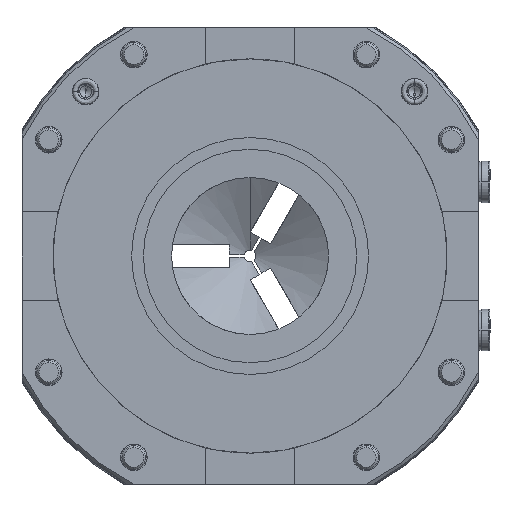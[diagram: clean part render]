
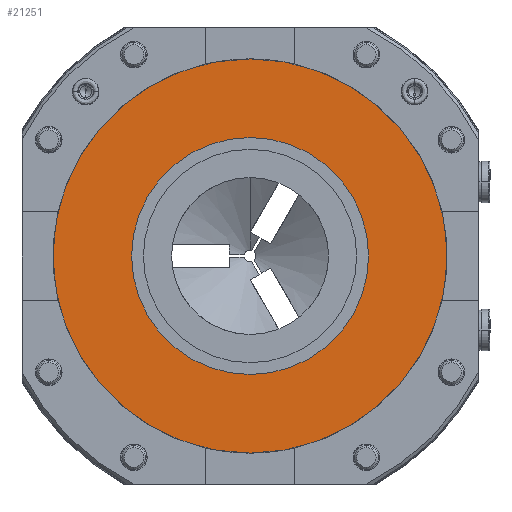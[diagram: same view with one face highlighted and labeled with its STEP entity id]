
A CAD part, front view. The second image highlights one B-rep face of the part: STEP entity #21251.
In plain terms, the highlighted planar face has unit normal (0, -1, 0).
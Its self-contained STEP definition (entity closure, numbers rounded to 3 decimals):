
#391 = ORIENTED_EDGE ( 'NONE', *, *, #12903, .T. ) ;
#392 = ORIENTED_EDGE ( 'NONE', *, *, #12898, .T. ) ;
#519 = ORIENTED_EDGE ( 'NONE', *, *, #22765, .T. ) ;
#520 = ORIENTED_EDGE ( 'NONE', *, *, #22830, .T. ) ;
#1693 = CARTESIAN_POINT ( 'NONE',  ( 0., 17.2, 0. ) ) ;
#1699 = DIRECTION ( 'NONE',  ( 0., 1., 0. ) ) ;
#1700 = DIRECTION ( 'NONE',  ( 0., 0., 1. ) ) ;
#2014 = CARTESIAN_POINT ( 'NONE',  ( 0., 17.2, 0. ) ) ;
#2020 = DIRECTION ( 'NONE',  ( 0., -1., 0. ) ) ;
#2021 = DIRECTION ( 'NONE',  ( 0., 0., 1. ) ) ;
#4736 = DIRECTION ( 'NONE',  ( 0., 0., 1. ) ) ;
#4737 = DIRECTION ( 'NONE',  ( 0., -1., 0. ) ) ;
#4739 = PLANE ( 'NONE',  #15852 ) ;
#4740 = CARTESIAN_POINT ( 'NONE',  ( 0., 17.2, 0. ) ) ;
#5073 = EDGE_LOOP ( 'NONE', ( #392, #520 ) ) ;
#5364 = EDGE_LOOP ( 'NONE', ( #391, #519 ) ) ;
#6061 = DIRECTION ( 'NONE',  ( 0., 0., 1. ) ) ;
#6062 = DIRECTION ( 'NONE',  ( 0., 1., 0. ) ) ;
#6063 = CARTESIAN_POINT ( 'NONE',  ( 0., 17.2, 0. ) ) ;
#6075 = DIRECTION ( 'NONE',  ( 0., 0., 1. ) ) ;
#6076 = DIRECTION ( 'NONE',  ( 0., -1., 0. ) ) ;
#6077 = CARTESIAN_POINT ( 'NONE',  ( 0., 17.2, 0. ) ) ;
#7336 = CARTESIAN_POINT ( 'NONE',  ( 0., 17.2, 66.55 ) ) ;
#7354 = CARTESIAN_POINT ( 'NONE',  ( 0., 17.2, -40. ) ) ;
#10494 = CIRCLE ( 'NONE', #16083, 66.55 ) ;
#10650 = CIRCLE ( 'NONE', #16086, 40. ) ;
#10928 = VERTEX_POINT ( 'NONE', #17851 ) ;
#10982 = VERTEX_POINT ( 'NONE', #18203 ) ;
#11267 = VERTEX_POINT ( 'NONE', #7354 ) ;
#11285 = VERTEX_POINT ( 'NONE', #7336 ) ;
#12898 = EDGE_CURVE ( 'NONE', #11285, #10982, #10494, .T. ) ;
#12903 = EDGE_CURVE ( 'NONE', #10928, #11267, #10650, .T. ) ;
#15852 = AXIS2_PLACEMENT_3D ( 'NONE', #4740, #4737, #4736 ) ;
#16083 = AXIS2_PLACEMENT_3D ( 'NONE', #6077, #6076, #6075 ) ;
#16086 = AXIS2_PLACEMENT_3D ( 'NONE', #6063, #6062, #6061 ) ;
#16524 = FACE_OUTER_BOUND ( 'NONE', #5073, .T. ) ;
#17028 = FACE_BOUND ( 'NONE', #5364, .T. ) ;
#17711 = AXIS2_PLACEMENT_3D ( 'NONE', #1693, #1699, #1700 ) ;
#17739 = AXIS2_PLACEMENT_3D ( 'NONE', #2014, #2020, #2021 ) ;
#17851 = CARTESIAN_POINT ( 'NONE',  ( 0., 17.2, 40. ) ) ;
#18203 = CARTESIAN_POINT ( 'NONE',  ( 0., 17.2, -66.55 ) ) ;
#20637 = CIRCLE ( 'NONE', #17739, 66.55 ) ;
#20830 = CIRCLE ( 'NONE', #17711, 40. ) ;
#21251 = ADVANCED_FACE ( 'NONE', ( #16524, #17028 ), #4739, .T. ) ;
#22765 = EDGE_CURVE ( 'NONE', #11267, #10928, #20830, .T. ) ;
#22830 = EDGE_CURVE ( 'NONE', #10982, #11285, #20637, .T. ) ;
